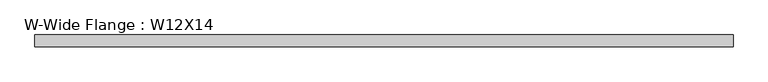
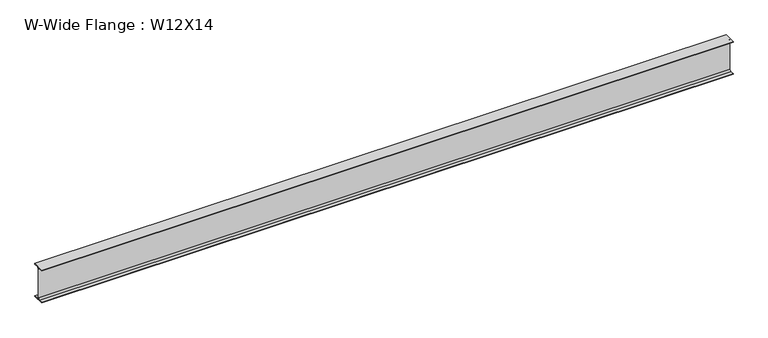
"""IFC4 building model written with IfcOpenShell, lengths in millimetres: beam geometry, W-Wide Flange : W12X14."""

from ifc_helpers import new_model, si_unit, point, frame, frame_2d, origin, place, context, project, spatial, polyline, circle_curve, trimmed, segment, composite_curve, outline, extrude, source, transform, mapped, element, save


def w_wide_flange_w12x14_a22e9f56(model_context):
    return source(origin(), model_context, "Body", "SweptSolid", [
        extrude(outline(composite_curve([segment(polyline([(50.419, -145.415), (50.419, -151.13), (-50.419, -151.13), (-50.419, -145.415), (-15.875, -145.415)]), True, "CONTINUOUS"), segment(trimmed(circle_curve(frame_2d((-15.875, -132.08)), 13.335), [point((-15.875, -145.415))], [point((-2.54, -132.08))], True, "CARTESIAN"), True, "CONTINUOUS"), segment(polyline([(-2.54, -132.08), (-2.54, 132.08)]), True, "CONTINUOUS"), segment(trimmed(circle_curve(frame_2d((-15.875, 132.08)), 13.335), [point((-2.54, 132.08))], [point((-15.875, 145.415))], True, "CARTESIAN"), True, "CONTINUOUS"), segment(polyline([(-15.875, 145.415), (-50.419, 145.415), (-50.419, 151.13), (50.419, 151.13), (50.419, 145.415), (15.875, 145.415)]), True, "CONTINUOUS"), segment(trimmed(circle_curve(frame_2d((15.875, 132.08)), 13.335), [point((15.875, 145.415))], [point((2.54, 132.08))], True, "CARTESIAN"), True, "CONTINUOUS"), segment(polyline([(2.54, 132.08), (2.54, -132.08)]), True, "CONTINUOUS"), segment(trimmed(circle_curve(frame_2d((15.875, -132.08)), 13.335), [point((2.54, -132.08))], [point((15.875, -145.415))], True, "CARTESIAN"), True, "CONTINUOUS"), segment(polyline([(15.875, -145.415), (50.419, -145.415)]), True, "CONTINUOUS")], self_intersect=False)), frame((-2965.069, 0.0, 0.0), z_axis=(1.0, 0.0, 0.0), x_axis=(0.0, 1.0, 0.0)), (0.0, 0.0, 1.0), 6013.069),
    ])


if __name__ == "__main__":
    model = new_model("IFC4")
    model_context = context("Model", 3, world=origin())
    ifc_project = project(units=[si_unit("LENGTHUNIT", "METRE", prefix="MILLI")], contexts=[model_context])
    site = spatial("IfcSite", under=ifc_project)
    building = spatial("IfcBuilding", under=site)
    placement = place(None, origin())
    w_wide_flange_w12x14_shape = w_wide_flange_w12x14_a22e9f56(model_context)
    element("IfcBeam", 1, ObjectType="W-Wide Flange : W12X14", at=placement, inside=building, context=model_context, shape_type="MappedRepresentation", body=[
        mapped(w_wide_flange_w12x14_shape, transform((0.0, 0.0, 0.0), x_axis=(1.0, 0.0, 0.0), y_axis=(0.0, 1.0, 0.0), z_axis=(0.0, 0.0, 1.0))),
    ])
    save(model, "model.ifc")
